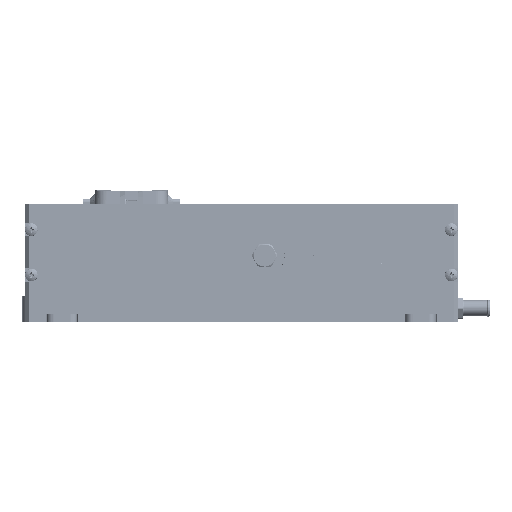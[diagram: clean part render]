
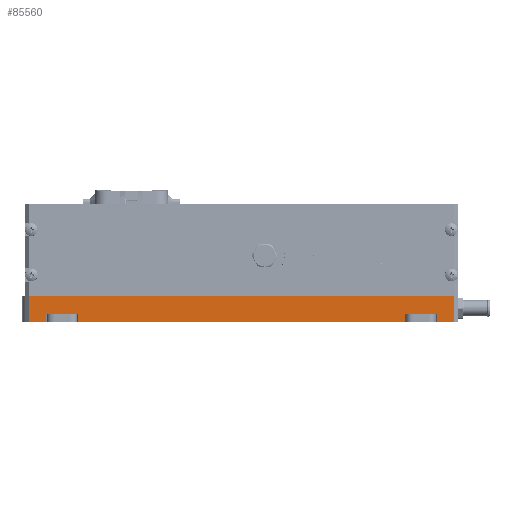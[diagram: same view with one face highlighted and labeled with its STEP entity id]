
A CAD part, left-side view. The second image highlights one B-rep face of the part: STEP entity #85560.
In plain terms, the highlighted planar face has unit normal (-1, 0, 0).
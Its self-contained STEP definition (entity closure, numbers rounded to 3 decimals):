
#85457=CARTESIAN_POINT('Axis2P3D Location',(-196.369,-57.077,-15.064)) ;
#85462=CARTESIAN_POINT('Line Origine',(-196.369,105.423,-15.064)) ;
#85466=CARTESIAN_POINT('Vertex',(-196.369,-17.077,-15.064)) ;
#85468=CARTESIAN_POINT('Vertex',(-196.369,227.923,-15.064)) ;
#85471=CARTESIAN_POINT('Line Origine',(-196.369,-17.077,-12.064)) ;
#85475=CARTESIAN_POINT('Vertex',(-196.369,-17.077,-9.064)) ;
#85478=CARTESIAN_POINT('Line Origine',(-196.369,-29.077,-9.064)) ;
#85482=CARTESIAN_POINT('Vertex',(-196.369,-41.077,-9.064)) ;
#85485=CARTESIAN_POINT('Line Origine',(-196.369,-41.077,-12.064)) ;
#85489=CARTESIAN_POINT('Vertex',(-196.369,-41.077,-15.064)) ;
#85492=CARTESIAN_POINT('Line Origine',(-196.369,-47.577,-15.064)) ;
#85496=CARTESIAN_POINT('Vertex',(-196.369,-54.077,-15.064)) ;
#85499=CARTESIAN_POINT('Line Origine',(-196.369,-54.077,-5.064)) ;
#85503=CARTESIAN_POINT('Vertex',(-196.369,-54.077,4.936)) ;
#85506=CARTESIAN_POINT('Line Origine',(-196.369,105.423,4.936)) ;
#85510=CARTESIAN_POINT('Vertex',(-196.369,264.923,4.936)) ;
#85513=CARTESIAN_POINT('Line Origine',(-196.369,264.923,-5.064)) ;
#85517=CARTESIAN_POINT('Vertex',(-196.369,264.923,-15.064)) ;
#85520=CARTESIAN_POINT('Line Origine',(-196.369,258.423,-15.064)) ;
#85524=CARTESIAN_POINT('Vertex',(-196.369,251.923,-15.064)) ;
#85527=CARTESIAN_POINT('Line Origine',(-196.369,251.923,-12.064)) ;
#85531=CARTESIAN_POINT('Vertex',(-196.369,251.923,-9.064)) ;
#85534=CARTESIAN_POINT('Line Origine',(-196.369,239.923,-9.064)) ;
#85538=CARTESIAN_POINT('Vertex',(-196.369,227.923,-9.064)) ;
#85541=CARTESIAN_POINT('Line Origine',(-196.369,227.923,-12.064)) ;
#85458=DIRECTION('Axis2P3D Direction',(1.,-0.,0.)) ;
#85459=DIRECTION('Axis2P3D XDirection',(0.,0.,-1.)) ;
#85463=DIRECTION('Vector Direction',(0.,1.,0.)) ;
#85472=DIRECTION('Vector Direction',(0.,0.,-1.)) ;
#85479=DIRECTION('Vector Direction',(0.,1.,0.)) ;
#85486=DIRECTION('Vector Direction',(0.,0.,-1.)) ;
#85493=DIRECTION('Vector Direction',(0.,1.,0.)) ;
#85500=DIRECTION('Vector Direction',(0.,0.,1.)) ;
#85507=DIRECTION('Vector Direction',(0.,1.,0.)) ;
#85514=DIRECTION('Vector Direction',(0.,0.,-1.)) ;
#85521=DIRECTION('Vector Direction',(0.,1.,0.)) ;
#85528=DIRECTION('Vector Direction',(0.,0.,-1.)) ;
#85535=DIRECTION('Vector Direction',(0.,1.,0.)) ;
#85542=DIRECTION('Vector Direction',(0.,0.,-1.)) ;
#85460=AXIS2_PLACEMENT_3D('Plane Axis2P3D',#85457,#85458,#85459) ;
#85547=ORIENTED_EDGE('',*,*,#85470,.F.) ;
#85548=ORIENTED_EDGE('',*,*,#85477,.F.) ;
#85549=ORIENTED_EDGE('',*,*,#85484,.F.) ;
#85550=ORIENTED_EDGE('',*,*,#85491,.T.) ;
#85551=ORIENTED_EDGE('',*,*,#85498,.F.) ;
#85552=ORIENTED_EDGE('',*,*,#85505,.T.) ;
#85553=ORIENTED_EDGE('',*,*,#85512,.T.) ;
#85554=ORIENTED_EDGE('',*,*,#85519,.T.) ;
#85555=ORIENTED_EDGE('',*,*,#85526,.F.) ;
#85556=ORIENTED_EDGE('',*,*,#85533,.F.) ;
#85557=ORIENTED_EDGE('',*,*,#85540,.F.) ;
#85558=ORIENTED_EDGE('',*,*,#85545,.T.) ;
#85464=VECTOR('Line Direction',#85463,1.) ;
#85473=VECTOR('Line Direction',#85472,1.) ;
#85480=VECTOR('Line Direction',#85479,1.) ;
#85487=VECTOR('Line Direction',#85486,1.) ;
#85494=VECTOR('Line Direction',#85493,1.) ;
#85501=VECTOR('Line Direction',#85500,1.) ;
#85508=VECTOR('Line Direction',#85507,1.) ;
#85515=VECTOR('Line Direction',#85514,1.) ;
#85522=VECTOR('Line Direction',#85521,1.) ;
#85529=VECTOR('Line Direction',#85528,1.) ;
#85536=VECTOR('Line Direction',#85535,1.) ;
#85543=VECTOR('Line Direction',#85542,1.) ;
#85560=ADVANCED_FACE('NAUO3\\NAUO153\\Extrude56',(#85559),#85461,.F.) ;
#85470=EDGE_CURVE('',#85467,#85469,#85465,.T.) ;
#85477=EDGE_CURVE('',#85476,#85467,#85474,.T.) ;
#85484=EDGE_CURVE('',#85483,#85476,#85481,.T.) ;
#85491=EDGE_CURVE('',#85483,#85490,#85488,.T.) ;
#85498=EDGE_CURVE('',#85497,#85490,#85495,.T.) ;
#85505=EDGE_CURVE('',#85497,#85504,#85502,.T.) ;
#85512=EDGE_CURVE('',#85504,#85511,#85509,.T.) ;
#85519=EDGE_CURVE('',#85511,#85518,#85516,.T.) ;
#85526=EDGE_CURVE('',#85525,#85518,#85523,.T.) ;
#85533=EDGE_CURVE('',#85532,#85525,#85530,.T.) ;
#85540=EDGE_CURVE('',#85539,#85532,#85537,.T.) ;
#85545=EDGE_CURVE('',#85539,#85469,#85544,.T.) ;
#85546=EDGE_LOOP('',(#85547,#85548,#85549,#85550,#85551,#85552,#85553,#85554,#85555,#85556,#85557,#85558)) ;
#85559=FACE_OUTER_BOUND('',#85546,.T.) ;
#85465=LINE('Line',#85462,#85464) ;
#85474=LINE('Line',#85471,#85473) ;
#85481=LINE('Line',#85478,#85480) ;
#85488=LINE('Line',#85485,#85487) ;
#85495=LINE('Line',#85492,#85494) ;
#85502=LINE('Line',#85499,#85501) ;
#85509=LINE('Line',#85506,#85508) ;
#85516=LINE('Line',#85513,#85515) ;
#85523=LINE('Line',#85520,#85522) ;
#85530=LINE('Line',#85527,#85529) ;
#85537=LINE('Line',#85534,#85536) ;
#85544=LINE('Line',#85541,#85543) ;
#85461=PLANE('',#85460) ;
#85467=VERTEX_POINT('',#85466) ;
#85469=VERTEX_POINT('',#85468) ;
#85476=VERTEX_POINT('',#85475) ;
#85483=VERTEX_POINT('',#85482) ;
#85490=VERTEX_POINT('',#85489) ;
#85497=VERTEX_POINT('',#85496) ;
#85504=VERTEX_POINT('',#85503) ;
#85511=VERTEX_POINT('',#85510) ;
#85518=VERTEX_POINT('',#85517) ;
#85525=VERTEX_POINT('',#85524) ;
#85532=VERTEX_POINT('',#85531) ;
#85539=VERTEX_POINT('',#85538) ;
